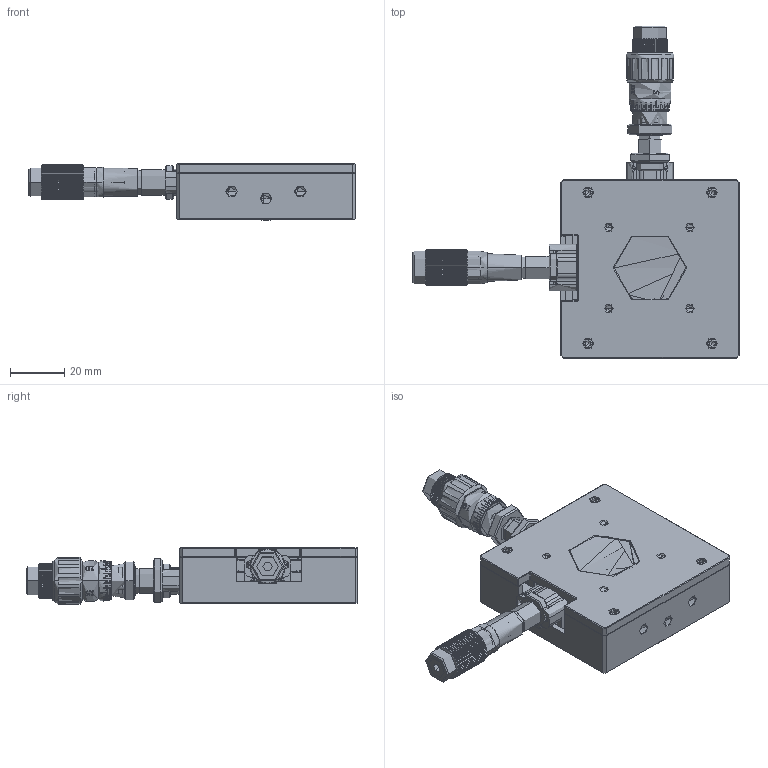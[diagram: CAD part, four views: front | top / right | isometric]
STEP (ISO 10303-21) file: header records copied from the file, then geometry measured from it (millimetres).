
FILE_DESCRIPTION((''),'2;1');
FILE_NAME('CXY1E_M_ASM','2021-05-24T',('Administrator'),(''),'CREO PARAMETRIC BY PTC INC, 2015290','CREO PARAMETRIC BY PTC INC, 2015290','');
FILE_SCHEMA(('CONFIG_CONTROL_DESIGN'));
Products named in the file (24): CXY1E_M_A1; CXY1E_M_A2; CXY1E_M_A3; CXY1E_M_A4; AXLE_1_6X6; SPRING_3X13; AXLE_1_6X8; SPACER_6X1; BALL_3; M2X6_HM; M2X5_HS; SPRING_3X18; AXLE_3X11; CXY1E_M_A8; M2X4_HS; CXY1E_M_A7; SM13_A1; SM13_A2; SM13_A6; SM13_A3; SM13_A4; SM25_A5; SM13_ASM; CXY1E_M_ASM
Assembly tree (85 placements, depth 3):
  CXY1E_M_ASM
    CXY1E_M_A1
    CXY1E_M_A2
    CXY1E_M_A3
    CXY1E_M_A4
    AXLE_1_6X6  x6
    SPRING_3X13  x6
    AXLE_1_6X8  x20
    SPACER_6X1  x2
    BALL_3  x6
    M2X6_HM  x10
    M2X5_HS  x8
    SPRING_3X18  x4
    AXLE_3X11  x2
    CXY1E_M_A8
    M2X4_HS  x6
    CXY1E_M_A7  x2
    SM13_ASM  x2
      SM13_A1
      SM13_A2
      SM13_A6
      SM13_A3
      SM13_A4
      SM25_A5
Bounding box: 120.76 x 122.79 x 21.08 mm (x, y, z)
Topology: 90 solids, 95 shells, 4783 faces, 12594 edges, 7933 vertices
Faces by surface type: cylinder 1810, plane 1317, bspline 1028, cone 528, torus 50, sphere 48, extrusion 2
Entity records: 204163 total; most frequent: CARTESIAN_POINT 131992, ORIENTED_EDGE 16860, DIRECTION 11911, EDGE_CURVE 8430, VERTEX_POINT 5446, AXIS2_PLACEMENT_3D 4262, VECTOR 3387, LINE 3385
